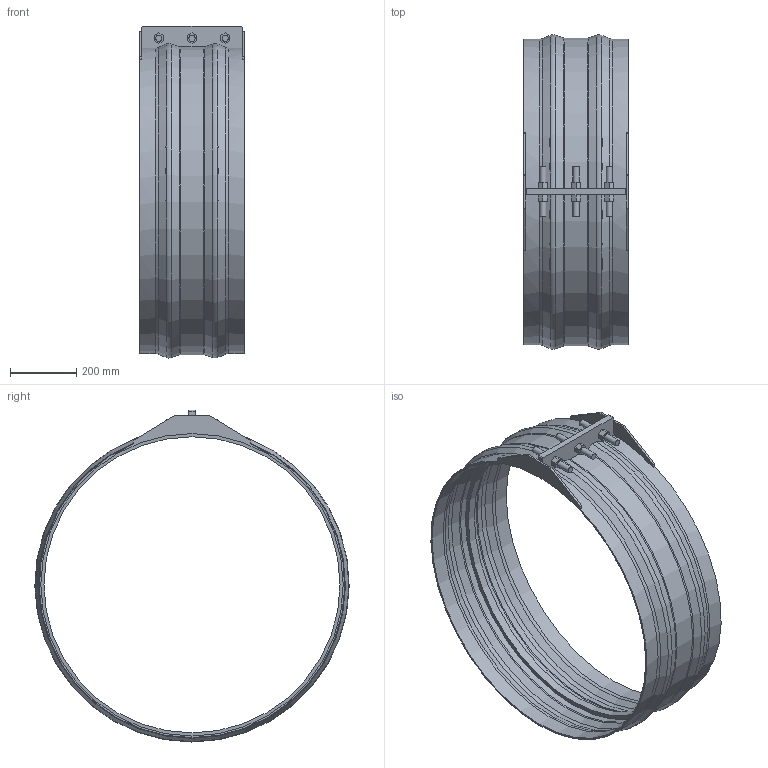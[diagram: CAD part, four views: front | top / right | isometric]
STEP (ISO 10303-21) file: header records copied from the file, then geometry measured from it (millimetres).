
FILE_DESCRIPTION(/* description */ ('VIC SS RESTRAINED COUPLING STYLE 233S (FLEX) (BRD)','CAx-IF Rec.Pracs.---Representation and Presentation of Product Manufacturing Information (PMI)---4.0---2014-10-13'),/* implementation_level */ '2;1');
FILE_NAME(/* name */ 'C:\Users\kkamble\AppData\Roaming\Autodesk\ApplicationPlugins\Back Up\Victaulic_VBSP_Coupling Flexible Restrained_Style 233S (BRD)\Victaulic_VBSP_Coupling Flexible Restrained_Style 233S (BRD)_100psi_36 (900).stp',/* time_stamp */ '2020-09-22T18:29:19+06:00',/* author */ ('Vjadhav'),/* organization */ ('Victaulic'),/* preprocessor_version */ 'ST-DEVELOPER v17.2',/* originating_system */ 'Autodesk Inventor 2019',/* authorisation */ '');
FILE_SCHEMA (('AP242_MANAGED_MODEL_BASED_3D_ENGINEERING_MIM_LF { 1 0 10303 442 1 1 4 }'));
Length unit declared in the file: inch
Products named in the file (1): Style_233S_Type_2_100psi-36.0
Bounding box: 317.5 x 950.57 x 1003.94 mm (x, y, z)
Volume: 6130628.5 mm3; surface area: 2109709.4 mm2
Topology: 1 solids, 1 shells, 115 faces, 309 edges, 210 vertices
Faces by surface type: plane 73, cylinder 22, torus 12, cone 8
Full cylindrical faces by diameter (mm): 19.05 x6, 895.35 x1, 914.4 x2, 920.75 x2
Entity records: 3970 total; most frequent: CARTESIAN_POINT 764, DIRECTION 645, ORIENTED_EDGE 618, EDGE_CURVE 309, AXIS2_PLACEMENT_3D 227, VERTEX_POINT 210, LINE 191, VECTOR 191
